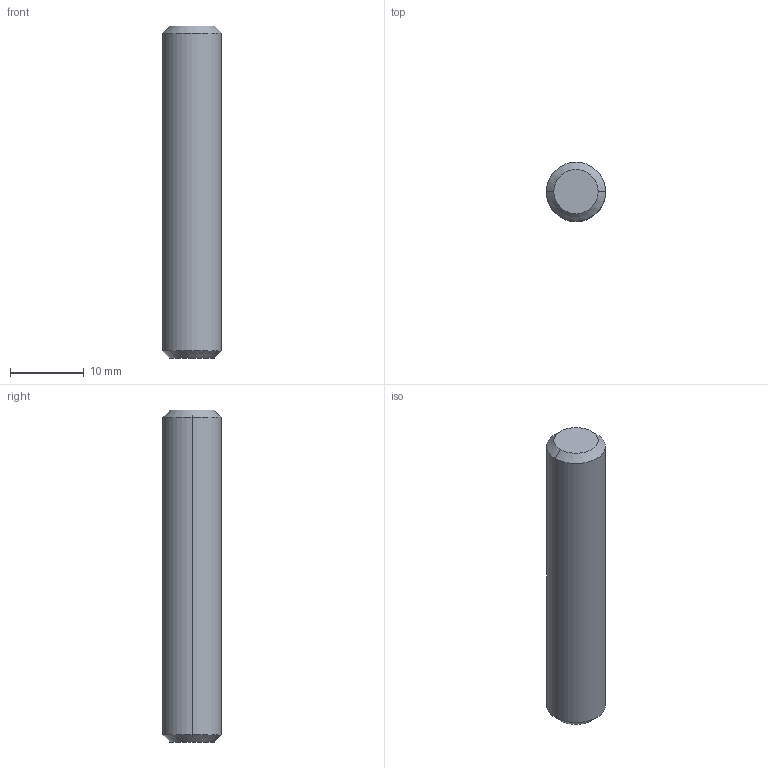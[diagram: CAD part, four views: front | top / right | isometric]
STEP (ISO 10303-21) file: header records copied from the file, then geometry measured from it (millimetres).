
FILE_DESCRIPTION (( 'STEP AP203' ), '1' );
FILE_NAME ('Axe pignon L45.STEP', '2025-09-18T11:49:10', ( '' ), ( '' ), 'SwSTEP 2.0', 'SolidWorks 2019', '' );
FILE_SCHEMA (( 'CONFIG_CONTROL_DESIGN' ));
Length unit declared in the file: millimetre
Products named in the file (1): Axe pignon L45
Bounding box: 8 x 8 x 45 mm (x, y, z)
Volume: 2238.9 mm3; surface area: 1199.5 mm2
Topology: 1 solids, 1 shells, 8 faces, 14 edges, 8 vertices
Faces by surface type: cone 4, cylinder 2, plane 2
Entity records: 271 total; most frequent: DIRECTION 40, CARTESIAN_POINT 31, ORIENTED_EDGE 28, AXIS2_PLACEMENT_3D 17, EDGE_CURVE 14, VERTEX_POINT 8, EDGE_LOOP 8, PERSON_AND_ORGANIZATION 8
